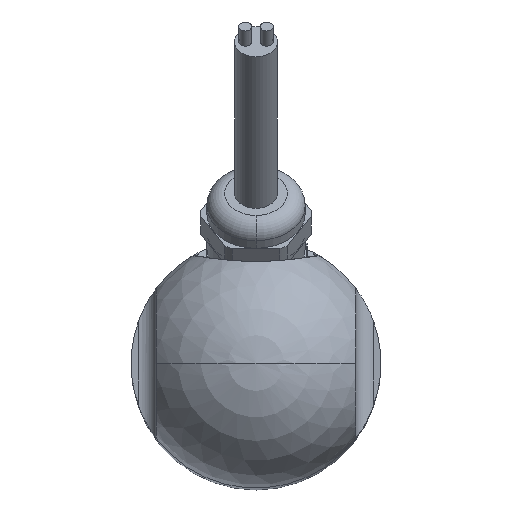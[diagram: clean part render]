
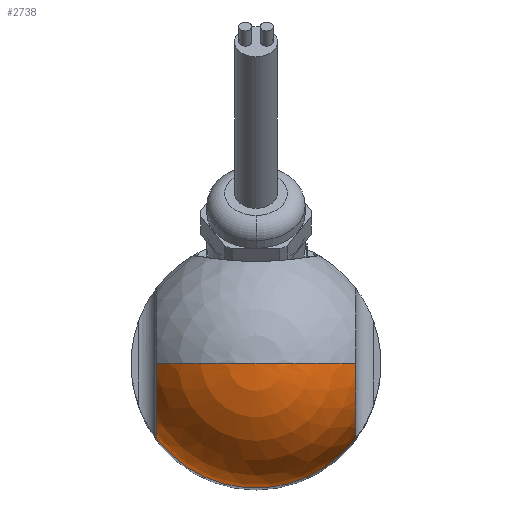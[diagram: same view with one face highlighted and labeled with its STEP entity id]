
A CAD part, top view. The second image highlights one B-rep face of the part: STEP entity #2738.
In plain terms, the highlighted spherical face has radius 17.5 mm.
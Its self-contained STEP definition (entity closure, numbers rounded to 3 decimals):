
#10=CARTESIAN_POINT('',(0.,0.,150.));
#11=DIRECTION('',(0.,0.,-1.));
#12=DIRECTION('',(0.8,-0.6,0.));
#13=AXIS2_PLACEMENT_3D('',#10,#11,#12);
#671=CARTESIAN_POINT('',(0.,0.,150.));
#672=DIRECTION('',(0.,1.,0.));
#673=DIRECTION('',(0.,0.,1.));
#674=AXIS2_PLACEMENT_3D('',#671,#672,#673);
#676=CARTESIAN_POINT('',(0.,0.,150.));
#677=DIRECTION('',(0.,-1.,0.));
#678=DIRECTION('',(0.,0.,1.));
#679=AXIS2_PLACEMENT_3D('',#676,#677,#678);
#728=CARTESIAN_POINT('',(14.,0.,150.));
#729=DIRECTION('',(-1.,0.,0.));
#730=DIRECTION('',(0.,-1.,0.));
#731=AXIS2_PLACEMENT_3D('',#728,#729,#730);
#733=CARTESIAN_POINT('',(-14.,0.,150.));
#734=DIRECTION('',(1.,0.,0.));
#735=DIRECTION('',(0.,0.,1.));
#736=AXIS2_PLACEMENT_3D('',#733,#734,#735);
#1402=CARTESIAN_POINT('',(14.,-10.5,150.));
#1403=CARTESIAN_POINT('',(14.,0.,160.5));
#1404=VERTEX_POINT('',#1402);
#1405=VERTEX_POINT('',#1403);
#1406=CARTESIAN_POINT('',(-14.,0.,160.5));
#1407=CARTESIAN_POINT('',(-14.,-10.5,150.));
#1408=VERTEX_POINT('',#1406);
#1409=VERTEX_POINT('',#1407);
#1416=CARTESIAN_POINT('',(0.,0.,167.5));
#1417=VERTEX_POINT('',#1416);
#2725=CARTESIAN_POINT('',(0.,0.,150.));
#2726=DIRECTION('',(0.,0.,-1.));
#2727=DIRECTION('',(1.,0.,0.));
#2728=AXIS2_PLACEMENT_3D('',#2725,#2726,#2727);
#2729=SPHERICAL_SURFACE('',#2728,17.5);
#2730=ORIENTED_EDGE('',*,*,#2688,.F.);
#2731=ORIENTED_EDGE('',*,*,#1711,.T.);
#2733=ORIENTED_EDGE('',*,*,#2732,.F.);
#2734=ORIENTED_EDGE('',*,*,#2672,.F.);
#2735=ORIENTED_EDGE('',*,*,#2670,.T.);
#2736=EDGE_LOOP('',(#2730,#2731,#2733,#2734,#2735));
#2737=FACE_OUTER_BOUND('',#2736,.F.);
#14=CIRCLE('',#13,17.5);
#675=CIRCLE('',#674,17.5);
#680=CIRCLE('',#679,17.5);
#732=CIRCLE('',#731,10.5);
#737=CIRCLE('',#736,10.5);
#1711=EDGE_CURVE('',#1404,#1409,#14,.T.);
#2670=EDGE_CURVE('',#1417,#1405,#675,.T.);
#2672=EDGE_CURVE('',#1417,#1408,#680,.T.);
#2688=EDGE_CURVE('',#1404,#1405,#732,.T.);
#2732=EDGE_CURVE('',#1408,#1409,#737,.T.);
#2738=ADVANCED_FACE('',(#2737),#2729,.T.);
